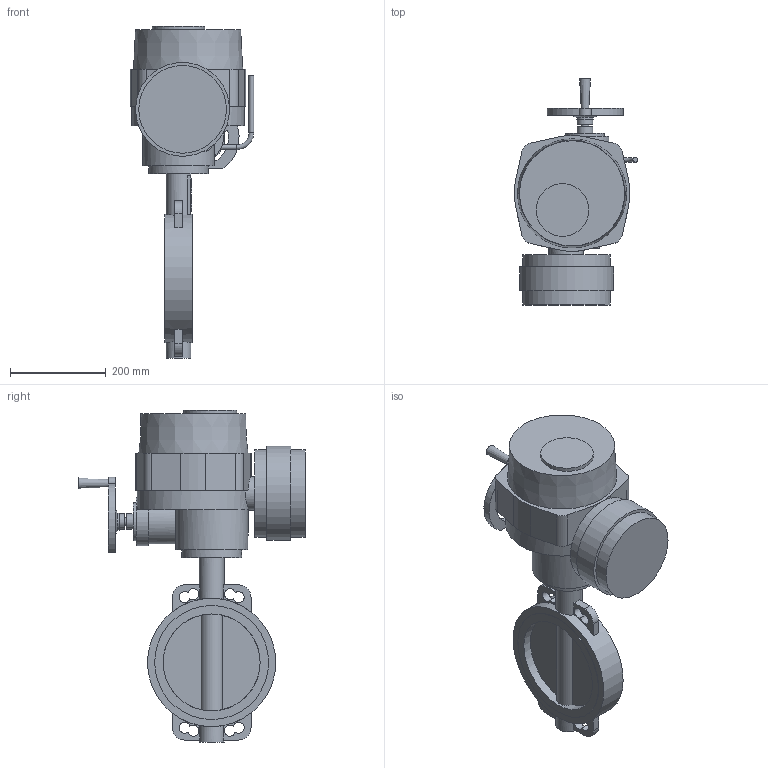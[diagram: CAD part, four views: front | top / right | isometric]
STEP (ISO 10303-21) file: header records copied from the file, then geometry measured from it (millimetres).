
FILE_DESCRIPTION(('STEP AP203'), '1');
FILE_NAME('Çàòâîð 017W.Z(ñòàëü) DN200+ÝÏ QT.A030', '', ('UNSPECIFIED'), ('UNSPECIFIED'), 'ASCON STEP Converter 1.6', 'ASCON Math Kernel', '');
FILE_SCHEMA(('CONFIG_CONTROL_DESIGN'));
Length unit declared in the file: millimetre
Bounding box: 257.68 x 472 x 693 mm (x, y, z)
Volume: 17119333.5 mm3; surface area: 723435.7 mm2
Topology: 1 solids, 1 shells, 837 faces, 2350 edges, 1562 vertices
Faces by surface type: cylinder 595, plane 238, cone 3, torus 1
Full cylindrical faces by diameter (mm): 6.7 x8, 10 x2, 12 x4, 16 x1, 32 x2, 35 x1, 52 x2, 70 x1, 80 x1, 100 x1, 110 x1, 125 x1, 150 x1, 183 x2, 196 x1, 202.5 x2, 238 x2, 268 x1
Entity records: 35300 total; most frequent: CARTESIAN_POINT 5882, DIRECTION 5199, ORIENTED_EDGE 4624, EDGE_CURVE 2312, AXIS2_PLACEMENT_3D 2070, VERTEX_POINT 1562, CIRCLE 1232, LINE 1059
